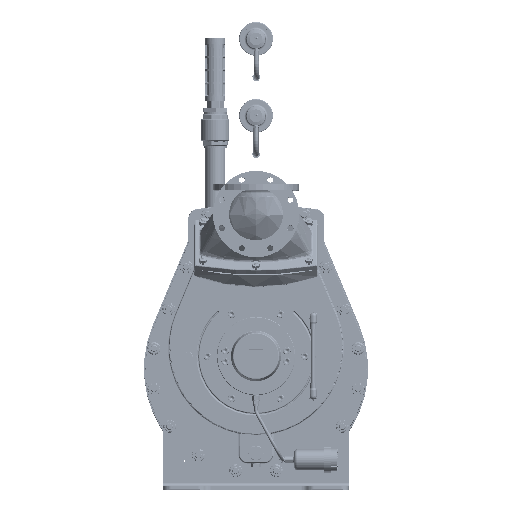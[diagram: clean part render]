
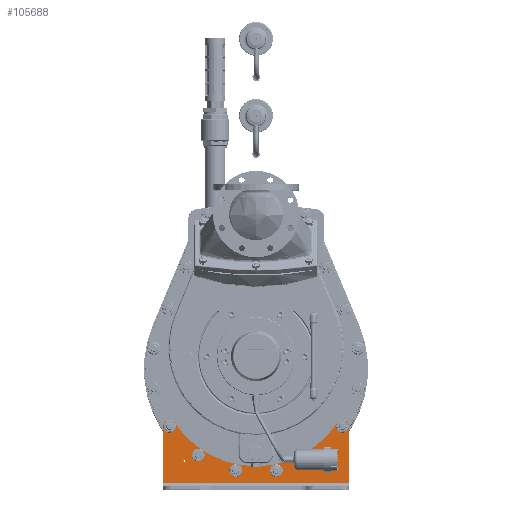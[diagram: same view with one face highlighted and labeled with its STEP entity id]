
A CAD part, top view. The second image highlights one B-rep face of the part: STEP entity #105688.
In plain terms, the highlighted planar face has unit normal (0, 0, 1) as drawn and (1, 0, 0) by its records, which use the part's own axes.
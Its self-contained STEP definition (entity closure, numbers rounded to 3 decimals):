
#12634=FACE_BOUND('',#21910,.T.);
#12635=FACE_BOUND('',#21911,.T.);
#12636=FACE_BOUND('',#21912,.T.);
#12637=FACE_BOUND('',#21913,.T.);
#12638=FACE_BOUND('',#21914,.T.);
#12639=FACE_BOUND('',#21915,.T.);
#12640=FACE_BOUND('',#21916,.T.);
#12641=FACE_BOUND('',#21917,.T.);
#13406=PLANE('',#113345);
#15683=FACE_OUTER_BOUND('',#21909,.T.);
#21909=EDGE_LOOP('',(#72186,#72187,#72188,#72189,#72190,#72191,#72192,#72193,
#72194,#72195));
#21910=EDGE_LOOP('',(#72196));
#21911=EDGE_LOOP('',(#72197));
#21912=EDGE_LOOP('',(#72198));
#21913=EDGE_LOOP('',(#72199));
#21914=EDGE_LOOP('',(#72200));
#21915=EDGE_LOOP('',(#72201));
#21916=EDGE_LOOP('',(#72202));
#21917=EDGE_LOOP('',(#72203));
#28906=LINE('',#145919,#35648);
#28908=LINE('',#145925,#35650);
#28909=LINE('',#145929,#35651);
#28910=LINE('',#145937,#35652);
#28911=LINE('',#145940,#35653);
#35648=VECTOR('',#121958,10.);
#35650=VECTOR('',#121964,10.);
#35651=VECTOR('',#121967,10.);
#35652=VECTOR('',#121974,10.);
#35653=VECTOR('',#121977,10.);
#42392=CIRCLE('',#113346,15.);
#42393=CIRCLE('',#113347,15.);
#42394=CIRCLE('',#113348,231.);
#42395=CIRCLE('',#113349,15.);
#42396=CIRCLE('',#113350,15.);
#42397=CIRCLE('',#113351,2.067);
#42398=CIRCLE('',#113352,2.067);
#42399=CIRCLE('',#113353,9.);
#42400=CIRCLE('',#113354,9.);
#42401=CIRCLE('',#113355,9.);
#42402=CIRCLE('',#113356,9.);
#42403=CIRCLE('',#113357,9.);
#42404=CIRCLE('',#113358,9.);
#45927=VERTEX_POINT('',#145916);
#45928=VERTEX_POINT('',#145918);
#45930=VERTEX_POINT('',#145924);
#45931=VERTEX_POINT('',#145926);
#45932=VERTEX_POINT('',#145928);
#45933=VERTEX_POINT('',#145930);
#45934=VERTEX_POINT('',#145932);
#45935=VERTEX_POINT('',#145934);
#45936=VERTEX_POINT('',#145936);
#45937=VERTEX_POINT('',#145938);
#45938=VERTEX_POINT('',#145941);
#45939=VERTEX_POINT('',#145943);
#45940=VERTEX_POINT('',#145945);
#45941=VERTEX_POINT('',#145947);
#45942=VERTEX_POINT('',#145949);
#45943=VERTEX_POINT('',#145951);
#45944=VERTEX_POINT('',#145953);
#45945=VERTEX_POINT('',#145955);
#56220=EDGE_CURVE('',#45927,#45928,#28906,.T.);
#56223=EDGE_CURVE('',#45930,#45927,#28908,.T.);
#56224=EDGE_CURVE('',#45931,#45930,#42392,.T.);
#56225=EDGE_CURVE('',#45932,#45931,#28909,.T.);
#56226=EDGE_CURVE('',#45933,#45932,#42393,.T.);
#56227=EDGE_CURVE('',#45933,#45934,#42394,.T.);
#56228=EDGE_CURVE('',#45935,#45934,#42395,.T.);
#56229=EDGE_CURVE('',#45936,#45935,#28910,.T.);
#56230=EDGE_CURVE('',#45937,#45936,#42396,.T.);
#56231=EDGE_CURVE('',#45928,#45937,#28911,.T.);
#56232=EDGE_CURVE('',#45938,#45938,#42397,.T.);
#56233=EDGE_CURVE('',#45939,#45939,#42398,.T.);
#56234=EDGE_CURVE('',#45940,#45940,#42399,.T.);
#56235=EDGE_CURVE('',#45941,#45941,#42400,.T.);
#56236=EDGE_CURVE('',#45942,#45942,#42401,.T.);
#56237=EDGE_CURVE('',#45943,#45943,#42402,.T.);
#56238=EDGE_CURVE('',#45944,#45944,#42403,.T.);
#56239=EDGE_CURVE('',#45945,#45945,#42404,.T.);
#72186=ORIENTED_EDGE('',*,*,#56220,.F.);
#72187=ORIENTED_EDGE('',*,*,#56223,.F.);
#72188=ORIENTED_EDGE('',*,*,#56224,.F.);
#72189=ORIENTED_EDGE('',*,*,#56225,.F.);
#72190=ORIENTED_EDGE('',*,*,#56226,.F.);
#72191=ORIENTED_EDGE('',*,*,#56227,.T.);
#72192=ORIENTED_EDGE('',*,*,#56228,.F.);
#72193=ORIENTED_EDGE('',*,*,#56229,.F.);
#72194=ORIENTED_EDGE('',*,*,#56230,.F.);
#72195=ORIENTED_EDGE('',*,*,#56231,.F.);
#72196=ORIENTED_EDGE('',*,*,#56232,.T.);
#72197=ORIENTED_EDGE('',*,*,#56233,.T.);
#72198=ORIENTED_EDGE('',*,*,#56234,.T.);
#72199=ORIENTED_EDGE('',*,*,#56235,.T.);
#72200=ORIENTED_EDGE('',*,*,#56236,.T.);
#72201=ORIENTED_EDGE('',*,*,#56237,.T.);
#72202=ORIENTED_EDGE('',*,*,#56238,.T.);
#72203=ORIENTED_EDGE('',*,*,#56239,.T.);
#105688=ADVANCED_FACE('',(#15683,#12634,#12635,#12636,#12637,#12638,#12639,
#12640,#12641),#13406,.T.);
#113345=AXIS2_PLACEMENT_3D('',#145923,#121962,#121963);
#113346=AXIS2_PLACEMENT_3D('',#145927,#121965,#121966);
#113347=AXIS2_PLACEMENT_3D('',#145931,#121968,#121969);
#113348=AXIS2_PLACEMENT_3D('',#145933,#121970,#121971);
#113349=AXIS2_PLACEMENT_3D('',#145935,#121972,#121973);
#113350=AXIS2_PLACEMENT_3D('',#145939,#121975,#121976);
#113351=AXIS2_PLACEMENT_3D('',#145942,#121978,#121979);
#113352=AXIS2_PLACEMENT_3D('',#145944,#121980,#121981);
#113353=AXIS2_PLACEMENT_3D('',#145946,#121982,#121983);
#113354=AXIS2_PLACEMENT_3D('',#145948,#121984,#121985);
#113355=AXIS2_PLACEMENT_3D('',#145950,#121986,#121987);
#113356=AXIS2_PLACEMENT_3D('',#145952,#121988,#121989);
#113357=AXIS2_PLACEMENT_3D('',#145954,#121990,#121991);
#113358=AXIS2_PLACEMENT_3D('',#145956,#121992,#121993);
#121958=DIRECTION('',(0.,0.,1.));
#121962=DIRECTION('center_axis',(1.,0.,0.));
#121963=DIRECTION('ref_axis',(0.,0.,-1.));
#121964=DIRECTION('',(0.,-1.,0.));
#121965=DIRECTION('center_axis',(-1.,0.,0.));
#121966=DIRECTION('ref_axis',(0.,0.707,-0.707));
#121967=DIRECTION('',(0.,0.,-1.));
#121968=DIRECTION('center_axis',(-1.,0.,0.));
#121969=DIRECTION('ref_axis',(0.,0.881,0.473));
#121970=DIRECTION('center_axis',(-1.,0.,0.));
#121971=DIRECTION('ref_axis',(0.,0.,-1.));
#121972=DIRECTION('center_axis',(-1.,0.,0.));
#121973=DIRECTION('ref_axis',(0.,0.881,-0.473));
#121974=DIRECTION('',(0.,0.,-1.));
#121975=DIRECTION('center_axis',(-1.,0.,0.));
#121976=DIRECTION('ref_axis',(0.,0.707,0.707));
#121977=DIRECTION('',(0.,1.,0.));
#121978=DIRECTION('center_axis',(-1.,0.,0.));
#121979=DIRECTION('ref_axis',(0.,0.,
-1.));
#121980=DIRECTION('center_axis',(-1.,0.,0.));
#121981=DIRECTION('ref_axis',(0.,0.,
-1.));
#121982=DIRECTION('center_axis',(-1.,0.,0.));
#121983=DIRECTION('ref_axis',(0.,0.,-1.));
#121984=DIRECTION('center_axis',(-1.,0.,0.));
#121985=DIRECTION('ref_axis',(0.,0.,-1.));
#121986=DIRECTION('center_axis',(-1.,0.,0.));
#121987=DIRECTION('ref_axis',(0.,0.,-1.));
#121988=DIRECTION('center_axis',(-1.,0.,0.));
#121989=DIRECTION('ref_axis',(0.,0.,-1.));
#121990=DIRECTION('center_axis',(-1.,0.,0.));
#121991=DIRECTION('ref_axis',(0.,0.,-1.));
#121992=DIRECTION('center_axis',(-1.,0.,0.));
#121993=DIRECTION('ref_axis',(0.,0.,-1.));
#145916=CARTESIAN_POINT('',(8.,16.,-220.));
#145918=CARTESIAN_POINT('',(8.,16.,220.));
#145919=CARTESIAN_POINT('',(8.,16.,0.));
#145923=CARTESIAN_POINT('Origin',(8.,58.,0.));
#145924=CARTESIAN_POINT('',(8.,150.,-220.));
#145925=CARTESIAN_POINT('',(8.,0.,-220.));
#145926=CARTESIAN_POINT('',(8.,165.,-205.));
#145927=CARTESIAN_POINT('Origin',(8.,150.,-205.));
#145928=CARTESIAN_POINT('',(8.,165.,-204.988));
#145929=CARTESIAN_POINT('',(8.,165.,-220.));
#145930=CARTESIAN_POINT('',(8.,158.293,-192.489));
#145931=CARTESIAN_POINT('Origin',(8.,150.,-204.988));
#145932=CARTESIAN_POINT('',(8.,158.293,192.489));
#145933=CARTESIAN_POINT('Origin',(8.,286.,0.));
#145934=CARTESIAN_POINT('',(8.,165.,204.988));
#145935=CARTESIAN_POINT('Origin',(8.,150.,204.988));
#145936=CARTESIAN_POINT('',(8.,165.,205.));
#145937=CARTESIAN_POINT('',(8.,165.,-220.));
#145938=CARTESIAN_POINT('',(8.,150.,220.));
#145939=CARTESIAN_POINT('Origin',(8.,150.,205.));
#145940=CARTESIAN_POINT('',(8.,165.,220.));
#145941=CARTESIAN_POINT('',(8.,68.,-167.933));
#145942=CARTESIAN_POINT('Origin',(8.,68.,-170.));
#145943=CARTESIAN_POINT('',(8.,68.,172.067));
#145944=CARTESIAN_POINT('Origin',(8.,68.,170.));
#145945=CARTESIAN_POINT('',(8.,149.33,213.542));
#145946=CARTESIAN_POINT('Origin',(8.,149.33,204.542));
#145947=CARTESIAN_POINT('',(8.,44.727,56.992));
#145948=CARTESIAN_POINT('Origin',(8.,44.727,47.992));
#145949=CARTESIAN_POINT('',(8.,81.458,-127.67));
#145950=CARTESIAN_POINT('Origin',(8.,81.458,-136.67));
#145951=CARTESIAN_POINT('',(8.,149.33,-195.542));
#145952=CARTESIAN_POINT('Origin',(8.,149.33,-204.542));
#145953=CARTESIAN_POINT('',(8.,44.727,-38.992));
#145954=CARTESIAN_POINT('Origin',(8.,44.727,-47.992));
#145955=CARTESIAN_POINT('',(8.,81.458,145.67));
#145956=CARTESIAN_POINT('Origin',(8.,81.458,136.67));
